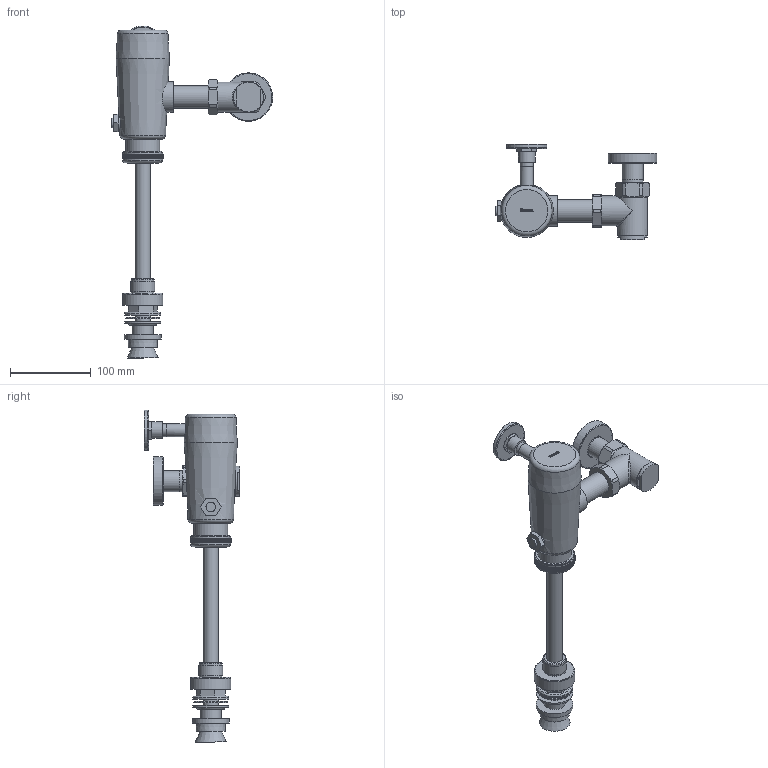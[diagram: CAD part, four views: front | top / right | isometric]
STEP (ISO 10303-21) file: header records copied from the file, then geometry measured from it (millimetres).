
FILE_DESCRIPTION(/* description */ (''),/* implementation_level */ '2;1');
FILE_NAME(/* name */ 'C:\Comun\ARCHIVOS 3D MAX\23014000.stp',/* time_stamp */ '2018-05-23T10:05:20-05:00',/* author */ ('jroman'),/* organization */ (''),/* preprocessor_version */ 'ST-DEVELOPER v17',/* originating_system */ 'Autodesk Inventor 2019',/* authorisation */ '');
FILE_SCHEMA (('AUTOMOTIVE_DESIGN { 1 0 10303 214 3 1 1 }'));
Length unit declared in the file: millimetre
Products named in the file (34): 23014000; AI04155; PVJ0230; PVJ0433; PV04509; ON00512; AI04511; OL07434; OB07019; BP04237; IB07503; ARANDELA BLANDA; PVJ0505; SC04015; SC04015_1; SC04015_2; SC04015_3; SC04015_4; SC04015_5; SC04015_6; SC04015_7; SC04015_8; SC04015_9; PART1; OJ00500; AI04501; BE04246; BF04238; IB07500; BP04240; IS07040; BP04239; BP04242; PART1_1
Assembly tree (33 placements, depth 3):
  23014000
    AI04155
    PVJ0230
    PVJ0433
    PV04509
    ON00512
    AI04511
    OL07434
    OB07019
    BP04237
    IB07503
    ARANDELA BLANDA
    PVJ0505
    SC04015
      SC04015_1
      SC04015_2
      SC04015_3
      SC04015_4
      SC04015_5
      SC04015_6
      SC04015_7
      SC04015_8
      SC04015_9
    PART1
    OJ00500
    AI04501
    BE04246
    BF04238
    IB07500
    BP04240
    IS07040
    BP04239
    BP04242
    PART1_1
Bounding box: 200 x 118.5 x 411 mm (x, y, z)
Volume: 580219.1 mm3; surface area: 196241.2 mm2
Topology: 32 solids, 32 shells, 1214 faces, 3374 edges, 2302 vertices
Faces by surface type: plane 713, cylinder 359, cone 76, torus 50, bspline 16
Full cylindrical faces by diameter (mm): 3.2 x1, 4 x1, 4.3 x1, 6.8 x1, 7 x1, 7.2 x1, 7.5 x1, 8.3 x1, 9.7 x1, 9.9 x3, 10 x1, 10.2 x1, 12 x1, 12.2 x1, 12.3 x1, 12.5 x1, 13.7 x1, 15 x1, 15.8 x2, 15.9 x1, 16 x4, 16.5 x1, 17 x4, 19 x3, 19.5 x1, 19.6 x1, 20 x2, 20.2 x1, 20.5 x2, 20.6 x1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
Entity records: 42478 total; most frequent: CARTESIAN_POINT 9041, DIRECTION 6947, ORIENTED_EDGE 6738, EDGE_CURVE 3369, AXIS2_PLACEMENT_3D 2450, VERTEX_POINT 2302, LINE 2047, VECTOR 2047
